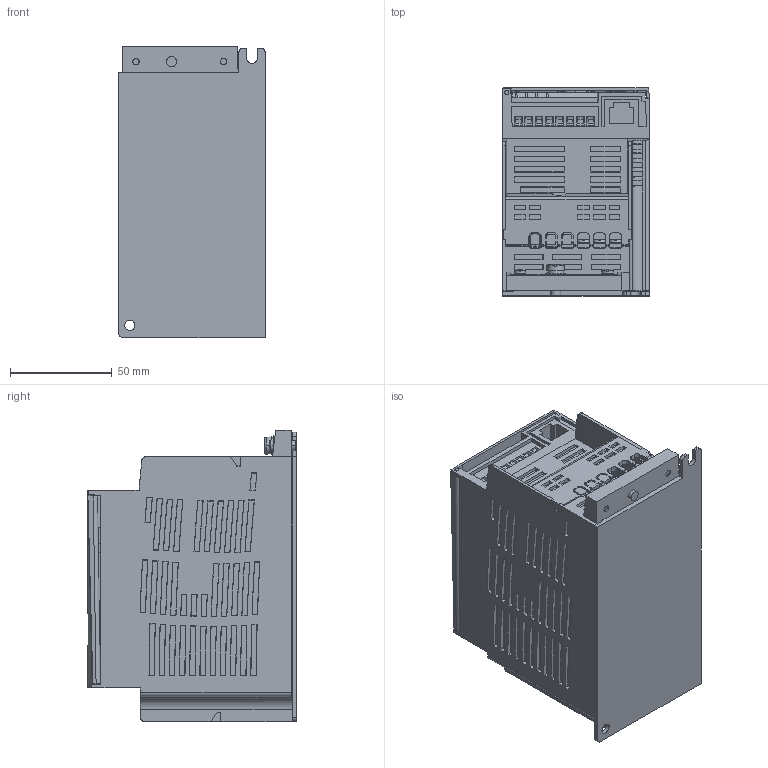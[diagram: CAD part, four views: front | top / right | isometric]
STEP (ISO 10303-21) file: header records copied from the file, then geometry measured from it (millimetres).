
FILE_DESCRIPTION((''),'2;1');
FILE_NAME('N3_S1_A_1_ASM','2026-03-23T10:19:41',('sesa57331'),('Schneider-Electric'),'CREO PARAMETRIC BY PTC INC, 2025093','CREO PARAMETRIC BY PTC INC, 2025093','');
FILE_SCHEMA(('AP242_MANAGED_MODEL_BASED_3D_ENGINEERING_MIM_LF { 1 0 10303 442 1 1 4 }'));
Products named in the file (19): DRIVE_S1_1; CONTROL_TERM_COVER; TERM_COVER_S1_1; TERM_COVER_S1_2; SCREW_M4_S1-46615; SCREW_M4_S1-47451; SCREW_M5_S1; SHUNT-BAR_S1; TERM_SCREW_S1-50091; TERM_SCREW_S1-51031; TERM_SCREW_S1-51971; TERM_SCREW_S1-52911; TERM_SCREW_S1-53851; TERM_SCREW_S1-54791; TERM_SCREW_S1-55731; TERM_SCREW_S1-56671; TERM_SCREW_S1-57611; TERM_SCREW_S1-58551; N3_S1_A_1_ASM
Assembly tree (18 placements, depth 2):
  N3_S1_A_1_ASM
    DRIVE_S1_1
    CONTROL_TERM_COVER
    TERM_COVER_S1_1
    TERM_COVER_S1_2
    SCREW_M4_S1-46615
    SCREW_M4_S1-47451
    SCREW_M5_S1
    SHUNT-BAR_S1
    TERM_SCREW_S1-50091
    TERM_SCREW_S1-51031
    TERM_SCREW_S1-51971
    TERM_SCREW_S1-52911
    TERM_SCREW_S1-53851
    TERM_SCREW_S1-54791
    TERM_SCREW_S1-55731
    TERM_SCREW_S1-56671
    TERM_SCREW_S1-57611
    TERM_SCREW_S1-58551
Bounding box: 72.05 x 102.4 x 142.95 mm (x, y, z)
Volume: 779023.7 mm3; surface area: 110563.1 mm2
Topology: 18 solids, 18 shells, 1884 faces, 5237 edges, 3580 vertices
Faces by surface type: plane 1411, cylinder 210, cone 187, sphere 40, torus 29, bspline 7
Entity records: 76223 total; most frequent: CARTESIAN_POINT 13878, ORIENTED_EDGE 10474, DIRECTION 9242, EDGE_CURVE 5237, VERTEX_POINT 3580, VECTOR 3532, LINE 3532, AXIS2_PLACEMENT_3D 2855
